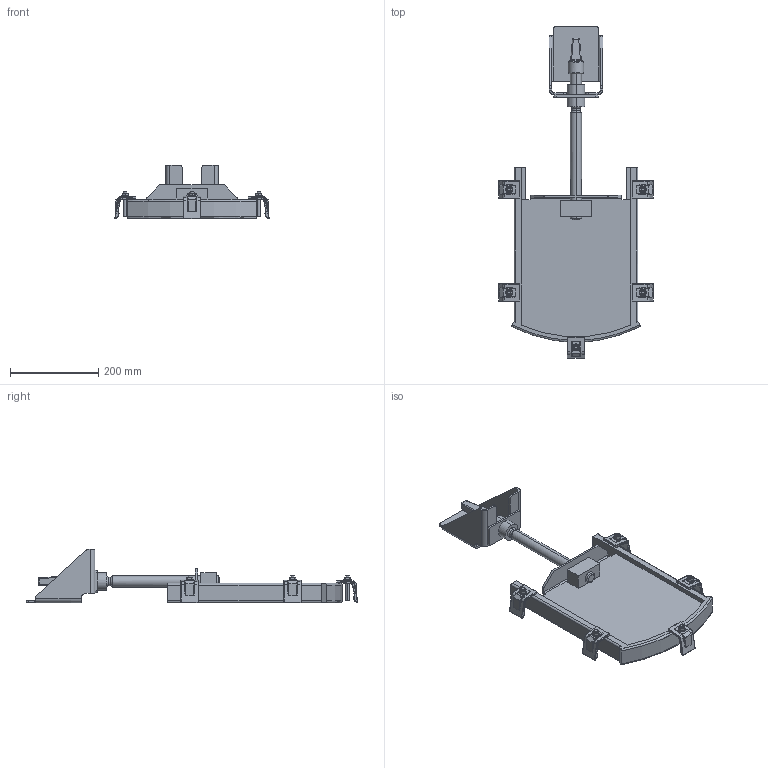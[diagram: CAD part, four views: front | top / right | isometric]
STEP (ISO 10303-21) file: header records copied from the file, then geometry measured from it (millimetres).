
FILE_DESCRIPTION (( 'STEP AP214' ), '1' );
FILE_NAME ('LW 200 gerad klemmen.STEP', '2022-05-18T13:43:25', ( '' ), ( '' ), 'SwSTEP 2.0', 'SolidWorks 2021', '' );
FILE_SCHEMA (( 'AUTOMOTIVE_DESIGN' ));
Length unit declared in the file: millimetre
Products named in the file (1): LW 200 gerad klemmen
Bounding box: 349.57 x 750.79 x 121 mm (x, y, z)
Volume: 1875725.2 mm3; surface area: 518420.6 mm2
Topology: 1 solids, 1 shells, 890 faces, 2069 edges, 1152 vertices
Faces by surface type: cylinder 333, plane 282, sphere 73, cone 72, torus 68, bspline 62
Entity records: 36616 total; most frequent: CARTESIAN_POINT 7770, DIRECTION 4192, ORIENTED_EDGE 3990, EDGE_CURVE 1995, AXIS2_PLACEMENT_3D 1652, VERTEX_POINT 1142, EDGE_LOOP 935, FACE_OUTER_BOUND 890
